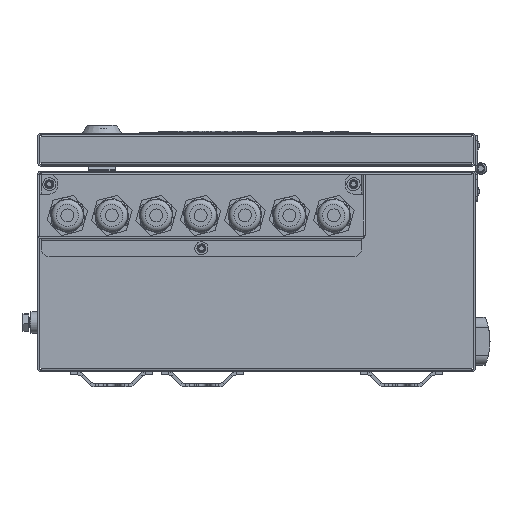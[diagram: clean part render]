
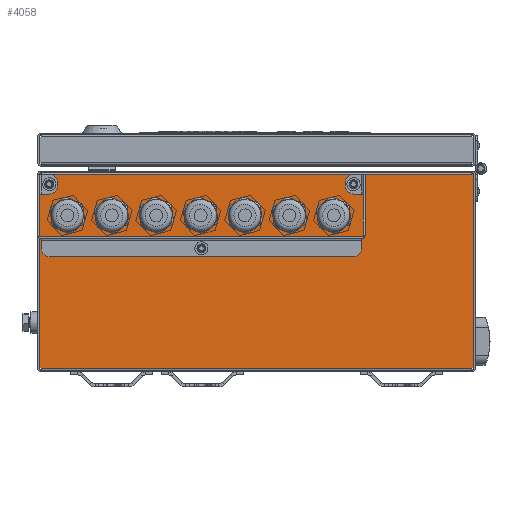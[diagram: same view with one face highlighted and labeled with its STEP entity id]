
A CAD part, front view. The second image highlights one B-rep face of the part: STEP entity #4058.
In plain terms, the highlighted planar face has unit normal (0, -1, 0).
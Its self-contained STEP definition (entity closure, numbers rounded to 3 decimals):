
#4058=ADVANCED_FACE('',(#13360,#13362,#13364,#13366,#13368,#13370,#13372,#13374,
#13376,#13378,#13380),#13382,.F.);
#13360=FACE_BOUND('',#13361,.T.);
#13361=EDGE_LOOP('',(#45337,#45338,#45339,#45340,#45341,#45342,#45343,#45344));
#13362=FACE_BOUND('',#13363,.T.);
#13363=EDGE_LOOP('',(#45345));
#13364=FACE_BOUND('',#13365,.T.);
#13365=EDGE_LOOP('',(#45346));
#13366=FACE_BOUND('',#13367,.T.);
#13367=EDGE_LOOP('',(#45347));
#13368=FACE_BOUND('',#13369,.T.);
#13369=EDGE_LOOP('',(#45348));
#13370=FACE_BOUND('',#13371,.T.);
#13371=EDGE_LOOP('',(#45349));
#13372=FACE_BOUND('',#13373,.T.);
#13373=EDGE_LOOP('',(#45350));
#13374=FACE_BOUND('',#13375,.T.);
#13375=EDGE_LOOP('',(#45351));
#13376=FACE_BOUND('',#13377,.T.);
#13377=EDGE_LOOP('',(#45352));
#13378=FACE_BOUND('',#13379,.T.);
#13379=EDGE_LOOP('',(#45353));
#13380=FACE_BOUND('',#13381,.T.);
#13381=EDGE_LOOP('',(#45354));
#13382=PLANE('',#13383);
#13383=AXIS2_PLACEMENT_3D('',#13384,#13385,#13386);
#13384=CARTESIAN_POINT('',(0.,-145.5,-143.699));
#13385=DIRECTION('',(0.,1.,0.));
#13386=DIRECTION('',(1.,0.,0.));
#45337=ORIENTED_EDGE('',*,*,#60345,.F.);
#45338=ORIENTED_EDGE('',*,*,#60416,.F.);
#45339=ORIENTED_EDGE('',*,*,#60417,.F.);
#45340=ORIENTED_EDGE('',*,*,#60418,.F.);
#45341=ORIENTED_EDGE('',*,*,#60419,.T.);
#45342=ORIENTED_EDGE('',*,*,#60420,.F.);
#45343=ORIENTED_EDGE('',*,*,#60421,.F.);
#45344=ORIENTED_EDGE('',*,*,#60422,.F.);
#45345=ORIENTED_EDGE('',*,*,#60423,.T.);
#45346=ORIENTED_EDGE('',*,*,#60424,.T.);
#45347=ORIENTED_EDGE('',*,*,#60425,.T.);
#45348=ORIENTED_EDGE('',*,*,#60426,.T.);
#45349=ORIENTED_EDGE('',*,*,#60427,.T.);
#45350=ORIENTED_EDGE('',*,*,#60428,.T.);
#45351=ORIENTED_EDGE('',*,*,#60429,.T.);
#45352=ORIENTED_EDGE('',*,*,#60430,.T.);
#45353=ORIENTED_EDGE('',*,*,#60431,.T.);
#45354=ORIENTED_EDGE('',*,*,#60432,.T.);
#60345=EDGE_CURVE('',#67583,#67584,#67585,.T.);
#60416=EDGE_CURVE('',#67710,#67583,#67711,.T.);
#60417=EDGE_CURVE('',#67712,#67710,#67713,.T.);
#60418=EDGE_CURVE('',#67714,#67712,#67715,.T.);
#60419=EDGE_CURVE('',#67714,#67716,#67717,.T.);
#60420=EDGE_CURVE('',#67718,#67716,#67719,.T.);
#60421=EDGE_CURVE('',#67720,#67718,#67721,.T.);
#60422=EDGE_CURVE('',#67584,#67720,#67722,.T.);
#60423=EDGE_CURVE('',#67723,#67723,#67724,.F.);
#60424=EDGE_CURVE('',#67725,#67725,#67726,.F.);
#60425=EDGE_CURVE('',#67727,#67727,#67728,.F.);
#60426=EDGE_CURVE('',#67729,#67729,#67730,.F.);
#60427=EDGE_CURVE('',#67731,#67731,#67732,.F.);
#60428=EDGE_CURVE('',#67733,#67733,#67734,.F.);
#60429=EDGE_CURVE('',#67735,#67735,#67736,.F.);
#60430=EDGE_CURVE('',#67737,#67737,#67738,.F.);
#60431=EDGE_CURVE('',#67739,#67739,#67740,.F.);
#60432=EDGE_CURVE('',#67741,#67741,#67742,.F.);
#67583=VERTEX_POINT('',#79181);
#67584=VERTEX_POINT('',#79182);
#67585=LINE('',#79183,#79184);
#67710=VERTEX_POINT('',#79479);
#67711=LINE('',#79480,#79481);
#67712=VERTEX_POINT('',#79483);
#67713=LINE('',#79484,#79485);
#67714=VERTEX_POINT('',#79487);
#67715=LINE('',#79488,#79489);
#67716=VERTEX_POINT('',#79491);
#67717=LINE('',#79492,#79493);
#67718=VERTEX_POINT('',#79495);
#67719=LINE('',#79496,#79497);
#67720=VERTEX_POINT('',#79499);
#67721=LINE('',#79500,#79501);
#67722=LINE('',#79503,#79504);
#67723=VERTEX_POINT('',#79506);
#67724=CIRCLE('',#79507,8.5);
#67725=VERTEX_POINT('',#79511);
#67726=CIRCLE('',#79512,8.5);
#67727=VERTEX_POINT('',#79516);
#67728=CIRCLE('',#79517,8.5);
#67729=VERTEX_POINT('',#79521);
#67730=CIRCLE('',#79522,8.5);
#67731=VERTEX_POINT('',#79526);
#67732=CIRCLE('',#79527,8.5);
#67733=VERTEX_POINT('',#79531);
#67734=CIRCLE('',#79532,8.5);
#67735=VERTEX_POINT('',#79536);
#67736=CIRCLE('',#79537,8.5);
#67737=VERTEX_POINT('',#79541);
#67738=CIRCLE('',#79542,2.6);
#67739=VERTEX_POINT('',#79546);
#67740=CIRCLE('',#79547,2.6);
#67741=VERTEX_POINT('',#79551);
#67742=CIRCLE('',#79552,2.6);
#79181=CARTESIAN_POINT('',(133.,-145.5,2.));
#79182=CARTESIAN_POINT('',(-129.,-145.5,2.));
#79183=CARTESIAN_POINT('',(133.,-145.5,2.));
#79184=VECTOR('',#79185,1.);
#79185=DIRECTION('',(-1.,0.,0.));
#79479=CARTESIAN_POINT('',(134.,-145.5,2.));
#79480=CARTESIAN_POINT('',(134.,-145.5,2.));
#79481=VECTOR('',#79482,1.);
#79482=DIRECTION('',(-1.,0.,0.));
#79483=CARTESIAN_POINT('',(134.,-145.5,120.));
#79484=CARTESIAN_POINT('',(134.,-145.5,120.));
#79485=VECTOR('',#79486,1.);
#79486=DIRECTION('',(0.,0.,-1.));
#79487=CARTESIAN_POINT('',(133.,-145.5,120.));
#79488=CARTESIAN_POINT('',(133.,-145.5,120.));
#79489=VECTOR('',#79490,1.);
#79490=DIRECTION('',(1.,0.,0.));
#79491=CARTESIAN_POINT('',(-129.,-145.5,120.));
#79492=CARTESIAN_POINT('',(133.,-145.5,120.));
#79493=VECTOR('',#79494,1.);
#79494=DIRECTION('',(-1.,0.,0.));
#79495=CARTESIAN_POINT('',(-130.,-145.5,120.));
#79496=CARTESIAN_POINT('',(-130.,-145.5,120.));
#79497=VECTOR('',#79498,1.);
#79498=DIRECTION('',(1.,0.,0.));
#79499=CARTESIAN_POINT('',(-130.,-145.5,2.));
#79500=CARTESIAN_POINT('',(-130.,-145.5,2.));
#79501=VECTOR('',#79502,1.);
#79502=DIRECTION('',(0.,0.,1.));
#79503=CARTESIAN_POINT('',(-129.,-145.5,2.));
#79504=VECTOR('',#79505,1.);
#79505=DIRECTION('',(-1.,0.,0.));
#79506=CARTESIAN_POINT('',(57.5,-145.5,95.));
#79507=AXIS2_PLACEMENT_3D('',#79508,#79509,#79510);
#79508=CARTESIAN_POINT('',(49.,-145.5,95.));
#79509=DIRECTION('',(-0.,-1.,0.));
#79510=DIRECTION('',(1.,0.,0.));
#79511=CARTESIAN_POINT('',(30.5,-145.5,95.));
#79512=AXIS2_PLACEMENT_3D('',#79513,#79514,#79515);
#79513=CARTESIAN_POINT('',(22.,-145.5,95.));
#79514=DIRECTION('',(-0.,-1.,0.));
#79515=DIRECTION('',(1.,0.,0.));
#79516=CARTESIAN_POINT('',(3.5,-145.5,95.));
#79517=AXIS2_PLACEMENT_3D('',#79518,#79519,#79520);
#79518=CARTESIAN_POINT('',(-5.,-145.5,95.));
#79519=DIRECTION('',(-0.,-1.,0.));
#79520=DIRECTION('',(1.,0.,0.));
#79521=CARTESIAN_POINT('',(-23.5,-145.5,95.));
#79522=AXIS2_PLACEMENT_3D('',#79523,#79524,#79525);
#79523=CARTESIAN_POINT('',(-32.,-145.5,95.));
#79524=DIRECTION('',(-0.,-1.,0.));
#79525=DIRECTION('',(1.,0.,0.));
#79526=CARTESIAN_POINT('',(-50.5,-145.5,95.));
#79527=AXIS2_PLACEMENT_3D('',#79528,#79529,#79530);
#79528=CARTESIAN_POINT('',(-59.,-145.5,95.));
#79529=DIRECTION('',(-0.,-1.,0.));
#79530=DIRECTION('',(1.,0.,0.));
#79531=CARTESIAN_POINT('',(-77.5,-145.5,95.));
#79532=AXIS2_PLACEMENT_3D('',#79533,#79534,#79535);
#79533=CARTESIAN_POINT('',(-86.,-145.5,95.));
#79534=DIRECTION('',(-0.,-1.,0.));
#79535=DIRECTION('',(1.,0.,0.));
#79536=CARTESIAN_POINT('',(-104.5,-145.5,95.));
#79537=AXIS2_PLACEMENT_3D('',#79538,#79539,#79540);
#79538=CARTESIAN_POINT('',(-113.,-145.5,95.));
#79539=DIRECTION('',(-0.,-1.,0.));
#79540=DIRECTION('',(1.,0.,0.));
#79541=CARTESIAN_POINT('',(-121.4,-145.5,114.));
#79542=AXIS2_PLACEMENT_3D('',#79543,#79544,#79545);
#79543=CARTESIAN_POINT('',(-124.,-145.5,114.));
#79544=DIRECTION('',(-0.,-1.,0.));
#79545=DIRECTION('',(1.,0.,0.));
#79546=CARTESIAN_POINT('',(-28.9,-145.5,75.));
#79547=AXIS2_PLACEMENT_3D('',#79548,#79549,#79550);
#79548=CARTESIAN_POINT('',(-31.5,-145.5,75.));
#79549=DIRECTION('',(-0.,-1.,0.));
#79550=DIRECTION('',(1.,0.,0.));
#79551=CARTESIAN_POINT('',(63.6,-145.5,114.));
#79552=AXIS2_PLACEMENT_3D('',#79553,#79554,#79555);
#79553=CARTESIAN_POINT('',(61.,-145.5,114.));
#79554=DIRECTION('',(-0.,-1.,0.));
#79555=DIRECTION('',(1.,0.,0.));
